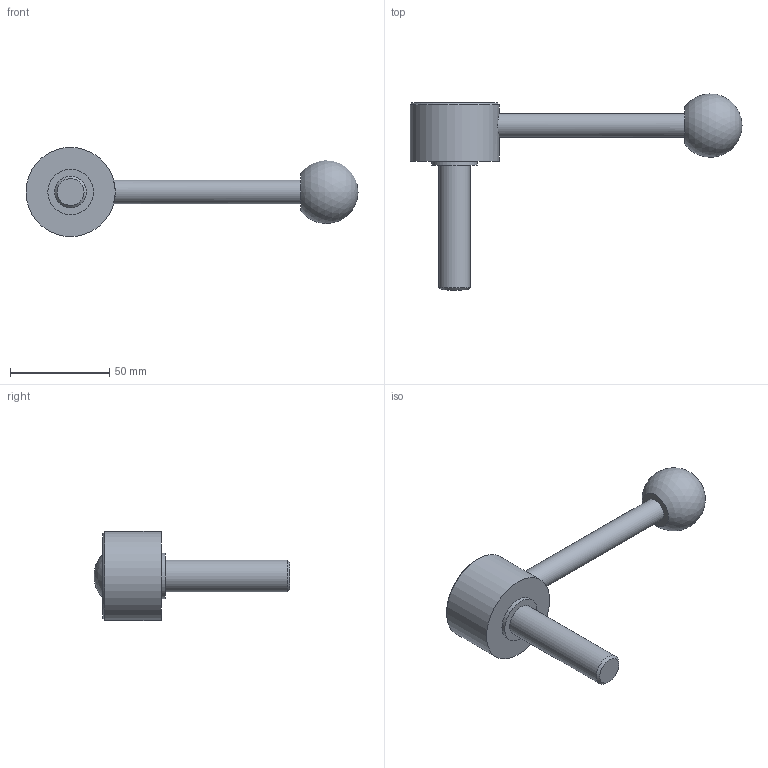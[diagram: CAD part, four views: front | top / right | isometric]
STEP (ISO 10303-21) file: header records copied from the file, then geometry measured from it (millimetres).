
FILE_DESCRIPTION( ( 'STEP AP203' ), '1' );
FILE_NAME( 'C:/Temp/Ganter_Step_05_03_2020/data/2_1/gn_125/gn_125_ms/gn_125_ms_d/Flat Adjustable Lever GN 125-45-M16-63-D.stp', '2020-03-05T11:00:52', ( 'License CC BY-ND 4.0' ), ( 'CADENAS' ), ' ', 'PARTsolutions', ' ' );
FILE_SCHEMA( ( 'CONFIG_CONTROL_DESIGN' ) );
Length unit declared in the file: millimetre
Products named in the file (1): _Flat Adjustable Lever GN 125-45-M16-63-D
Bounding box: 167.5 x 98.88 x 45 mm (x, y, z)
Volume: 87439.5 mm3; surface area: 17067.1 mm2
Topology: 1 solids, 1 shells, 14 faces, 23 edges, 15 vertices
Faces by surface type: plane 6, cylinder 5, cone 2, sphere 1
Full cylindrical faces by diameter (mm): 12 x1, 16 x1, 23 x1, 32 x1, 45 x1
Entity records: 402 total; most frequent: CARTESIAN_POINT 125, DIRECTION 54, AXIS2_PLACEMENT_3D 27, EDGE_LOOP 26, ORIENTED_EDGE 26, FACE_OUTER_BOUND 19, ADVANCED_FACE 14, VERTEX_POINT 14
